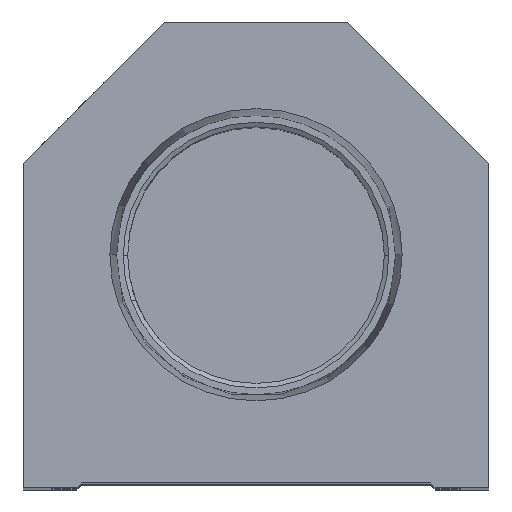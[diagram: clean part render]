
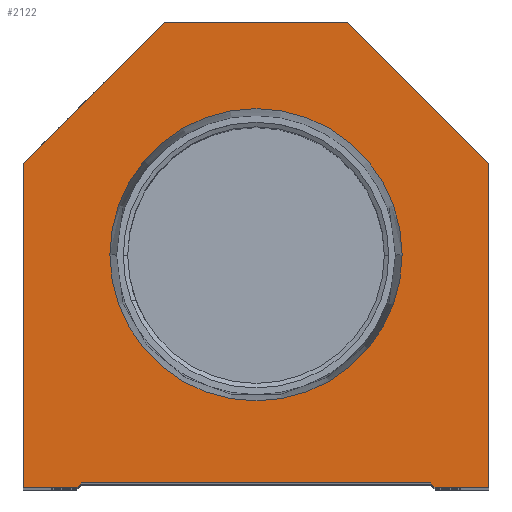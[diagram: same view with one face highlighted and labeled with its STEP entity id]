
A CAD part, top view. The second image highlights one B-rep face of the part: STEP entity #2122.
In plain terms, the highlighted planar face has unit normal (0, 0, 1).
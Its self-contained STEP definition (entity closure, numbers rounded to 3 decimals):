
#150 = ORIENTED_EDGE ( 'NONE', *, *, #1656, .T. ) ;
#267 = DIRECTION ( 'NONE',  ( -0.707, 0.707, 0. ) ) ;
#447 = DIRECTION ( 'NONE',  ( 1., 0., 0. ) ) ;
#698 = LINE ( 'NONE', #15433, #9559 ) ;
#953 = VERTEX_POINT ( 'NONE', #16226 ) ;
#1079 = DIRECTION ( 'NONE',  ( 0., 1., 0. ) ) ;
#1087 = CARTESIAN_POINT ( 'NONE',  ( 15.947, 25.4, 0. ) ) ;
#1148 = CARTESIAN_POINT ( 'NONE',  ( 0., 25.4, 0. ) ) ;
#1229 = VERTEX_POINT ( 'NONE', #1087 ) ;
#1286 = CARTESIAN_POINT ( 'NONE',  ( 25.4, 35.4, 0. ) ) ;
#1656 = EDGE_CURVE ( 'NONE', #7446, #14624, #14379, .T. ) ;
#1675 = EDGE_LOOP ( 'NONE', ( #2713, #14242 ) ) ;
#1826 = EDGE_CURVE ( 'NONE', #9267, #15145, #698, .T. ) ;
#1830 = CARTESIAN_POINT ( 'NONE',  ( -25.4, 0., 0. ) ) ;
#1974 = DIRECTION ( 'NONE',  ( -0.707, -0.707, 0. ) ) ;
#2122 = ADVANCED_FACE ( 'NONE', ( #17200, #5331 ), #11041, .T. ) ;
#2196 = EDGE_CURVE ( 'NONE', #12696, #17900, #9268, .T. ) ;
#2713 = ORIENTED_EDGE ( 'NONE', *, *, #6276, .F. ) ;
#2729 = DIRECTION ( 'NONE',  ( 0.707, -0.707, 0. ) ) ;
#2839 = VECTOR ( 'NONE', #447, 1000. ) ;
#3106 = CIRCLE ( 'NONE', #8275, 15.947 ) ;
#3311 = VECTOR ( 'NONE', #2729, 1000. ) ;
#3313 = VECTOR ( 'NONE', #16656, 1000. ) ;
#3363 = AXIS2_PLACEMENT_3D ( 'NONE', #17286, #11597, #10027 ) ;
#3412 = LINE ( 'NONE', #6169, #4448 ) ;
#3727 = CARTESIAN_POINT ( 'NONE',  ( 0., 0., 0. ) ) ;
#4448 = VECTOR ( 'NONE', #267, 1000. ) ;
#5045 = DIRECTION ( 'NONE',  ( 1., 0., 0. ) ) ;
#5181 = DIRECTION ( 'NONE',  ( -1., 0., 0. ) ) ;
#5331 = FACE_OUTER_BOUND ( 'NONE', #14136, .T. ) ;
#5486 = DIRECTION ( 'NONE',  ( 1., 0., 0. ) ) ;
#5547 = CARTESIAN_POINT ( 'NONE',  ( -19.05, 0.5, 0. ) ) ;
#6131 = EDGE_CURVE ( 'NONE', #953, #7446, #11033, .T. ) ;
#6157 = LINE ( 'NONE', #18012, #10325 ) ;
#6169 = CARTESIAN_POINT ( 'NONE',  ( 25.4, 35.4, 0. ) ) ;
#6177 = CARTESIAN_POINT ( 'NONE',  ( -19.05, 0., 0. ) ) ;
#6276 = EDGE_CURVE ( 'NONE', #1229, #15683, #11664, .T. ) ;
#7174 = CARTESIAN_POINT ( 'NONE',  ( -25.4, 35.4, 0. ) ) ;
#7446 = VERTEX_POINT ( 'NONE', #9913 ) ;
#7563 = CARTESIAN_POINT ( 'NONE',  ( 10., 50.8, 0. ) ) ;
#7630 = DIRECTION ( 'NONE',  ( 0., -1., 0. ) ) ;
#8275 = AXIS2_PLACEMENT_3D ( 'NONE', #1148, #13974, #12519 ) ;
#8326 = EDGE_CURVE ( 'NONE', #9159, #12696, #15005, .T. ) ;
#8394 = CARTESIAN_POINT ( 'NONE',  ( 19.05, 0.5, 0. ) ) ;
#8436 = ORIENTED_EDGE ( 'NONE', *, *, #8326, .T. ) ;
#8753 = EDGE_CURVE ( 'NONE', #15065, #15939, #17352, .T. ) ;
#8772 = ORIENTED_EDGE ( 'NONE', *, *, #15113, .T. ) ;
#9159 = VERTEX_POINT ( 'NONE', #7174 ) ;
#9267 = VERTEX_POINT ( 'NONE', #7563 ) ;
#9268 = LINE ( 'NONE', #6177, #2839 ) ;
#9559 = VECTOR ( 'NONE', #5181, 1000. ) ;
#9913 = CARTESIAN_POINT ( 'NONE',  ( 25.4, 0., 0. ) ) ;
#10027 = DIRECTION ( 'NONE',  ( 1., 0., 0. ) ) ;
#10102 = ORIENTED_EDGE ( 'NONE', *, *, #2196, .T. ) ;
#10143 = ORIENTED_EDGE ( 'NONE', *, *, #8753, .T. ) ;
#10325 = VECTOR ( 'NONE', #1974, 1000. ) ;
#10648 = ORIENTED_EDGE ( 'NONE', *, *, #14454, .T. ) ;
#11033 = LINE ( 'NONE', #12497, #15375 ) ;
#11041 = PLANE ( 'NONE',  #18178 ) ;
#11386 = CARTESIAN_POINT ( 'NONE',  ( -19.05, 0.5, 0. ) ) ;
#11597 = DIRECTION ( 'NONE',  ( 0., 0., 1. ) ) ;
#11664 = CIRCLE ( 'NONE', #3363, 15.947 ) ;
#11733 = VECTOR ( 'NONE', #1079, 1000. ) ;
#11859 = EDGE_CURVE ( 'NONE', #14624, #9267, #3412, .T. ) ;
#12497 = CARTESIAN_POINT ( 'NONE',  ( 19.05, 0., 0. ) ) ;
#12519 = DIRECTION ( 'NONE',  ( 1., 0., 0. ) ) ;
#12696 = VERTEX_POINT ( 'NONE', #13941 ) ;
#13476 = EDGE_CURVE ( 'NONE', #15939, #953, #14800, .T. ) ;
#13497 = LINE ( 'NONE', #13771, #3313 ) ;
#13771 = CARTESIAN_POINT ( 'NONE',  ( -9.775, 9.775, 0. ) ) ;
#13827 = VECTOR ( 'NONE', #7630, 1000. ) ;
#13941 = CARTESIAN_POINT ( 'NONE',  ( -25.4, 0., 0. ) ) ;
#13974 = DIRECTION ( 'NONE',  ( 0., 0., 1. ) ) ;
#14136 = EDGE_LOOP ( 'NONE', ( #10102, #8772, #10143, #14259, #18578, #150, #18679, #17877, #10648, #8436 ) ) ;
#14242 = ORIENTED_EDGE ( 'NONE', *, *, #17492, .F. ) ;
#14259 = ORIENTED_EDGE ( 'NONE', *, *, #13476, .T. ) ;
#14280 = CARTESIAN_POINT ( 'NONE',  ( 25.4, 0., 0. ) ) ;
#14379 = LINE ( 'NONE', #14280, #11733 ) ;
#14454 = EDGE_CURVE ( 'NONE', #15145, #9159, #6157, .T. ) ;
#14624 = VERTEX_POINT ( 'NONE', #1286 ) ;
#14800 = LINE ( 'NONE', #18892, #3311 ) ;
#15005 = LINE ( 'NONE', #1830, #13827 ) ;
#15065 = VERTEX_POINT ( 'NONE', #5547 ) ;
#15113 = EDGE_CURVE ( 'NONE', #17900, #15065, #13497, .T. ) ;
#15145 = VERTEX_POINT ( 'NONE', #18063 ) ;
#15375 = VECTOR ( 'NONE', #5045, 1000. ) ;
#15433 = CARTESIAN_POINT ( 'NONE',  ( 10., 50.8, 0. ) ) ;
#15683 = VERTEX_POINT ( 'NONE', #17138 ) ;
#15939 = VERTEX_POINT ( 'NONE', #8394 ) ;
#16118 = CARTESIAN_POINT ( 'NONE',  ( -19.55, 0., 0. ) ) ;
#16226 = CARTESIAN_POINT ( 'NONE',  ( 19.55, 0., 0. ) ) ;
#16656 = DIRECTION ( 'NONE',  ( 0.707, 0.707, 0. ) ) ;
#16940 = DIRECTION ( 'NONE',  ( 1., 0., 0. ) ) ;
#17138 = CARTESIAN_POINT ( 'NONE',  ( -15.947, 25.4, 0. ) ) ;
#17200 = FACE_BOUND ( 'NONE', #1675, .T. ) ;
#17286 = CARTESIAN_POINT ( 'NONE',  ( 0., 25.4, 0. ) ) ;
#17352 = LINE ( 'NONE', #11386, #18714 ) ;
#17492 = EDGE_CURVE ( 'NONE', #15683, #1229, #3106, .T. ) ;
#17877 = ORIENTED_EDGE ( 'NONE', *, *, #1826, .T. ) ;
#17900 = VERTEX_POINT ( 'NONE', #16118 ) ;
#18012 = CARTESIAN_POINT ( 'NONE',  ( -25.4, 35.4, 0. ) ) ;
#18063 = CARTESIAN_POINT ( 'NONE',  ( -10., 50.8, 0. ) ) ;
#18178 = AXIS2_PLACEMENT_3D ( 'NONE', #3727, #18722, #16940 ) ;
#18578 = ORIENTED_EDGE ( 'NONE', *, *, #6131, .T. ) ;
#18679 = ORIENTED_EDGE ( 'NONE', *, *, #11859, .T. ) ;
#18714 = VECTOR ( 'NONE', #5486, 1000. ) ;
#18722 = DIRECTION ( 'NONE',  ( 0., 0., 1. ) ) ;
#18892 = CARTESIAN_POINT ( 'NONE',  ( 9.775, 9.775, 0. ) ) ;
